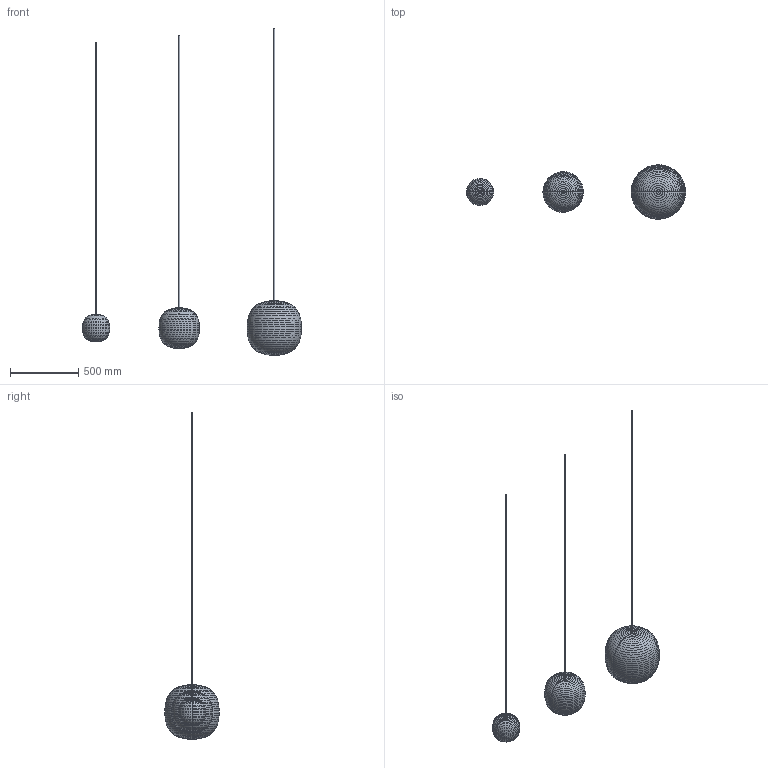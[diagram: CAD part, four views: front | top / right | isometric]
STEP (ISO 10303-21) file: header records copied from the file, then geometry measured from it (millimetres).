
FILE_DESCRIPTION(/* description */ (''),/* implementation_level */ '2;1');
FILE_NAME(/* name */ 'Lantern Pendant Family, New Works',/* time_stamp */ '2015-12-14T23:57:15+01:00',/* author */ (''),/* organization */ (''),/* preprocessor_version */ 'ST-DEVELOPER v15',/* originating_system */ '',/* authorisation */ '');
FILE_SCHEMA (('AUTOMOTIVE_DESIGN'));
Length unit declared in the file: millimetre
Products named in the file (1): Document
Bounding box: 1610 x 399.37 x 2401.49 mm (x, y, z)
Volume: 56904782.3 mm3; surface area: 1093775.2 mm2
Topology: 6 solids, 6 shells, 214 faces, 431 edges, 220 vertices
Faces by surface type: bspline 208, plane 6
Entity records: 9431 total; most frequent: CARTESIAN_POINT 7257, ORIENTED_EDGE 832, EDGE_CURVE 416, ADVANCED_FACE 214, FACE_OUTER_BOUND 214, EDGE_LOOP 214, VERTEX_POINT 214, DIRECTION 12
